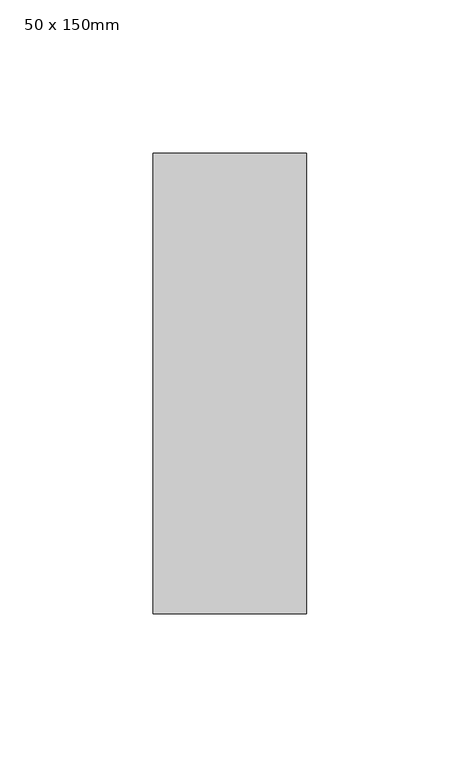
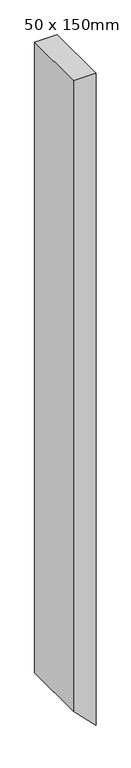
"""IFC4 building model written with IfcOpenShell, lengths in millimetres: member geometry, Prostokątny szpros : 50 x 150mm."""

from ifc_helpers import new_model, si_unit, frame, origin, place, context, project, spatial, polyline, outline, extrude, source, transform, mapped, element, save


def member_50_x_150mm_a1cac82c(model_context):
    return source(origin(), model_context, "Body", "SweptSolid", [
        extrude(outline(polyline([(0.0, 25.0), (0.0, -25.0), (-1488.2359314, -25.0), (-1538.2359314, 25.0), (0.0, 25.0)])), frame((0.0, -75.0, 0.0), z_axis=(0.0, 1.0, 0.0), x_axis=(0.0, 0.0, 1.0)), (0.0, 0.0, 1.0), 150.0),
    ])


if __name__ == "__main__":
    model = new_model("IFC4")
    model_context = context("Model", 3, world=origin())
    ifc_project = project(units=[si_unit("LENGTHUNIT", "METRE", prefix="MILLI")], contexts=[model_context])
    site = spatial("IfcSite", under=ifc_project)
    building = spatial("IfcBuilding", under=site)
    placement = place(None, origin())
    member_50_x_150mm_shape = member_50_x_150mm_a1cac82c(model_context)
    element("IfcMember", 1, ObjectType="Prostokątny szpros : 50 x 150mm", at=placement, inside=building, context=model_context, shape_type="MappedRepresentation", body=[
        mapped(member_50_x_150mm_shape, transform((0.0, 0.0, 0.0), x_axis=(1.0, 0.0, 0.0), y_axis=(0.0, 1.0, 0.0), z_axis=(0.0, 0.0, 1.0))),
    ])
    save(model, "model.ifc")
